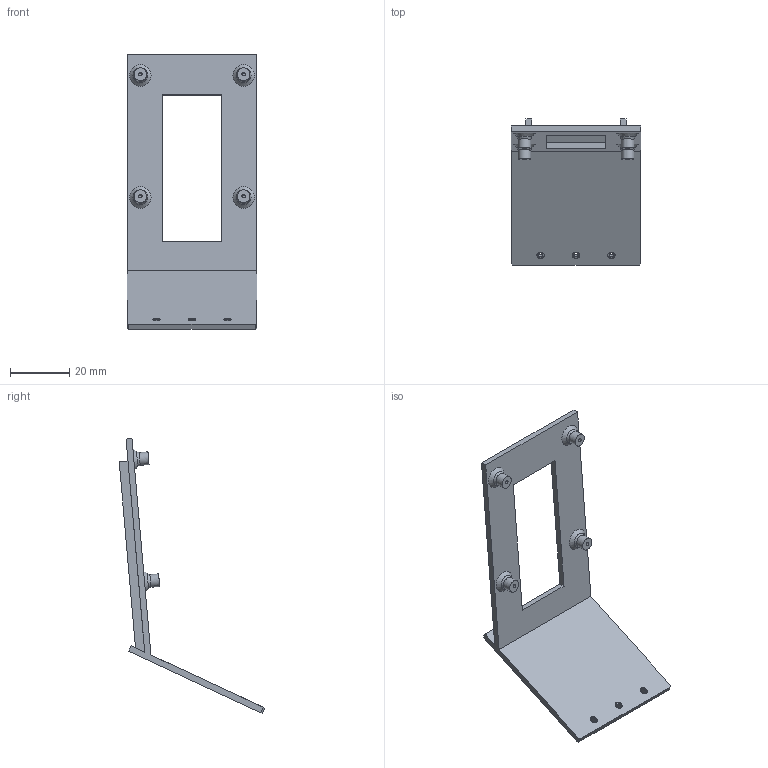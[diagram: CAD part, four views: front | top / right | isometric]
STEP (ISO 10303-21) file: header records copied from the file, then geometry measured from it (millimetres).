
FILE_DESCRIPTION(/* description */ ('STEP AP242','CAx-IF Rec.Pracs.---Representation and Presentation of Product Manufacturing Information (PMI)---4.0---2014-10-13','CAx-IF Rec.Pracs.---3D Tessellated Geometry---0.4---2014-09-14','2;1'),/* implementation_level */ '2;1');
FILE_NAME(/* name */ '6856aa758a3a8d47ea07baac',/* time_stamp */ '2025-06-21T12:49:58Z',/* author */ (''),/* organization */ (''),/* preprocessor_version */ 'ST-DEVELOPER v20',/* originating_system */ 'ONSHAPE BY PTC INC, 1.199',/* authorisation */ ' ');
FILE_SCHEMA (('AP242_MANAGED_MODEL_BASED_3D_ENGINEERING_MIM_LF { 1 0 10303 442 1 1 4 }'));
Length unit declared in the file: metre
Products named in the file (1): Platte Raspberry
Bounding box: 44 x 49.35 x 93.15 mm (x, y, z)
Volume: 9937.9 mm3; surface area: 10820.7 mm2
Topology: 1 solids, 1 shells, 57 faces, 132 edges, 88 vertices
Faces by surface type: plane 35, cylinder 14, cone 8
Full cylindrical faces by diameter (mm): 1.2 x4, 1.5 x3, 2.5 x3, 4.3 x4
Entity records: 1478 total; most frequent: DIRECTION 254, CARTESIAN_POINT 240, ORIENTED_EDGE 204, EDGE_CURVE 102, EDGE_LOOP 98, FACE_BOUND 98, AXIS2_PLACEMENT_3D 94, VERTEX_POINT 80
